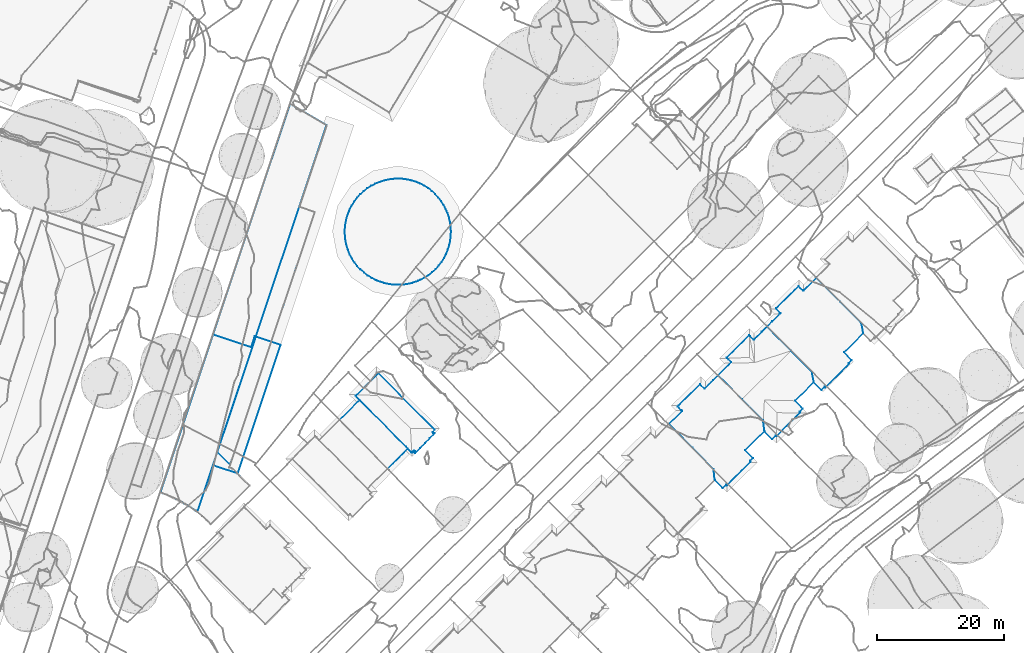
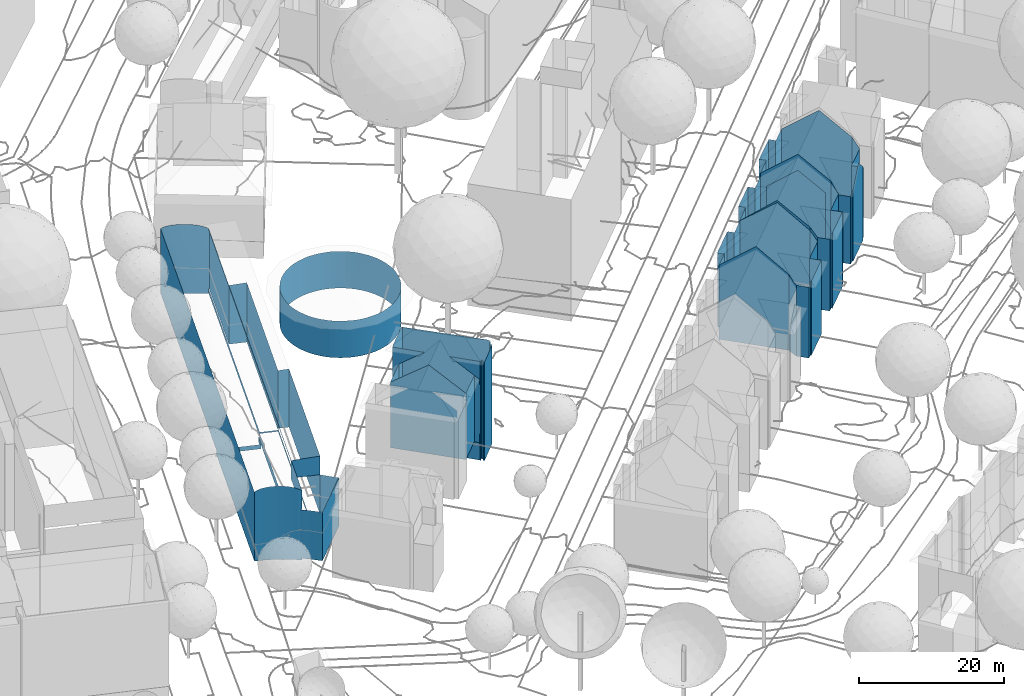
# Not in any storey, part 27 of 477: 6 walls.
"""IFC4 building model written with IfcOpenShell, lengths in metres."""

from ifc_helpers import new_model, si_unit, frame, origin_with_axes, place, context, subcontext, project, spatial, polygons, element, save


model = new_model("IFC4")

# Units and contexts
model_context = context("Model", 3, precision=1e-05, world=origin_with_axes())
body_context = subcontext(model_context, "Body", "Model", "MODEL_VIEW")
ifc_project = project(units=[si_unit("AREAUNIT", "SQUARE_METRE"), si_unit("LENGTHUNIT", "METRE")], contexts=[model_context])

# Sites, building
site_1_placement = place(None, origin_with_axes())
site_1 = spatial("IfcSite", under=ifc_project, at=site_1_placement, Name="Topoexport Site")
site_2_placement = place(site_1_placement, origin_with_axes())
site_2 = spatial("IfcSite", under=site_1, at=site_2_placement, Name="TPX_BUILDINGS")
building_1_placement = place(site_2_placement, frame((168.236732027, 159.8387160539, 531.4768), z_axis=(0.0, 0.0, 1.0), x_axis=(1.0, 0.0, 0.0)))
building_1 = spatial("IfcBuilding", under=site_2, at=building_1_placement, Name="Building 76", CompositionType="ELEMENT")

# Wall
wall_1_placement = place(None, frame((168.236732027, 159.8387160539, 531.4768), z_axis=(0.0, 0.0, 1.0), x_axis=(1.0, 0.0, 0.0)))
element("IfcWall", 1, at=wall_1_placement, inside=building_1, Name="Wall 0", context=body_context, shape_type="Tessellation", body=[
    polygons([(11.4100000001, -7.4043000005, 0.0), (12.1099999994, -6.7080000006, 13.4237), (12.5319999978, -6.2891000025, 1.9428), (12.9759999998, -5.8487000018, 12.3158), (12.9759999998, -5.8487000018, 0.0), (13.3440000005, -5.2735000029, 0.0), (13.1799999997, -5.4356000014, 11.9209), (13.3440000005, -5.2735000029, 11.7109), (12.8709999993, -5.7432000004, 0.0), (12.8709999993, -5.7432000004, 12.3158), (12.1510000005, -4.0655000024, 0.0), (12.1510000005, -4.0655000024, 11.7109), (15.1840000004, -1.0703000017, 0.0), (15.1840000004, -1.0703000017, 11.7109), (14.8770000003, 0.5409999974, 0.0), (14.8770000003, 0.5409999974, 12.7678), (9.1860000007, -9.6123000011, 0.0), (9.0819999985, -9.505900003, 0.0), (9.1860000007, -9.6123000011, 11.9878), (9.4199999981, -9.3789000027, 12.2898), (9.4109999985, -9.3877000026, 0.0), (10.6479999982, -8.1601999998, 13.8747), (11.2010000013, -7.6114000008, 14.5876), (10.362999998, -8.443400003, 3.9336), (7.3669999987, -8.7871000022, 11.3339), (8.574000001, -10.009800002, 11.3339), (7.3669999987, -8.7871000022, 0.0), (8.574000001, -10.009800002, 0.0), (9.0819999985, -9.505900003, 11.9888), (7.0720000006, -7.1641000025, 0.0), (3.7619999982, -3.8115000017, 0.0), (7.0720000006, -7.1641000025, 12.7678), (11.5669999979, 3.8954999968, 0.0), (11.5669999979, 3.8954999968, 16.4254), (7.7809999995, 7.7303999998, 0.0), (7.7809999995, 7.7303999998, 12.2278), (5.7349999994, 5.6981999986, 0.0), (5.7540000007, 5.7167999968, 12.2338), (5.688000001, 5.6512999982, 0.0), (5.7309999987, 5.6942999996, 12.2608), (5.688000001, 5.6512999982, 12.3088), (5.2509999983, 6.0907999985, 5.3855), (4.9710000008, 6.3729999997, 0.0), (4.9890000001, 6.3553999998, 12.3108), (2.2919999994, 3.748999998, 12.2788), (1.3990000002, 2.873999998, 12.2748), (1.3990000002, 2.873999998, 0.0), (4.0779999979, 5.4979999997, 12.2868), (4.9710000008, 6.3729999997, 12.2908), (1.4600000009, 2.8125, 12.3448), (1.4529999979, 2.8192999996, 0.0), (2.1400000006, 2.1268999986, 12.3628), (2.1400000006, 2.1268999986, 0.0), (2.0590000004, 2.0458999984, 12.2768), (2.0579999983, 2.0449000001, 0.0), (2.0170000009, 2.0048999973, 0.0), (2.0159999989, 2.003899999, 12.2308), (0.8209999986, 0.816399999, 12.2508), (0.824000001, 0.8192999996, 0.0), (0.0, 0.0, 12.2538), (3.7619999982, -3.8115999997, 16.4254), (0.0, 0.0, 0.0)], [[[3, 2, 1]], [[5, 4, 2]], [[5, 3, 1]], [[8, 7, 6]], [[6, 7, 9]], [[7, 10, 9]], [[12, 6, 11]], [[6, 12, 8]], [[14, 12, 13]], [[16, 14, 15]], [[19, 18, 17]], [[20, 19, 17]], [[21, 20, 17]], [[23, 22, 1]], [[24, 22, 20]], [[21, 24, 20]], [[24, 21, 1]], [[27, 26, 25]], [[27, 28, 26]], [[26, 18, 29]], [[26, 28, 18]], [[25, 30, 27]], [[32, 31, 30]], [[34, 16, 33]], [[36, 33, 35]], [[38, 36, 37]], [[41, 40, 39]], [[42, 41, 39]], [[44, 42, 43]], [[42, 39, 43]], [[47, 46, 45]], [[45, 48, 47]], [[43, 47, 48]], [[43, 48, 49]], [[51, 50, 47]], [[43, 49, 44]], [[50, 53, 52]], [[50, 51, 53]], [[52, 53, 54]], [[54, 53, 55]], [[54, 55, 56]], [[59, 58, 57]], [[54, 56, 57]], [[57, 56, 59]], [[61, 60, 31]], [[58, 59, 62]], [[60, 58, 62]], [[2, 23, 1]], [[2, 3, 5]], [[10, 4, 9]], [[4, 5, 9]], [[12, 11, 13]], [[14, 13, 15]], [[18, 19, 29]], [[22, 24, 1]], [[32, 30, 25]], [[61, 31, 32]], [[16, 15, 33]], [[34, 33, 36]], [[36, 35, 37]], [[39, 40, 38]], [[37, 39, 38]], [[42, 44, 41]], [[46, 47, 50]], [[60, 62, 31]]]),
])

# Building
building_2_placement = place(site_2_placement, frame((152.792732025, 144.4969160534, 530.4589), z_axis=(0.0, 0.0, 1.0), x_axis=(1.0, 0.0, 0.0)))
building_2 = spatial("IfcBuilding", under=site_2, at=building_2_placement, Name="Building 77", CompositionType="ELEMENT")

# Wall
wall_2_placement = place(None, frame((152.792732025, 144.4969160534, 530.4589), z_axis=(0.0, 0.0, 1.0), x_axis=(1.0, 0.0, 0.0)))
element("IfcWall", 2, at=wall_2_placement, inside=building_2, Name="Wall 0", context=body_context, shape_type="Tessellation", body=[
    polygons([(11.4990000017, 3.9199000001, 0.0), (14.8100000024, 0.5673999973, 12.7558), (11.4990000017, 3.9199000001, 16.6064), (1.9750000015, 2.0830000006, 12.4228), (2.0360000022, 2.0214999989, 12.4898), (2.0360000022, 2.0214999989, 0.0), (1.9360000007, 2.1219999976, 12.3788), (1.9040000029, 2.1543000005, 0.0), (0.0, 0.0, 0.0), (0.0, 0.0, 12.4958), (3.7160000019, -3.7655999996, 0.0), (3.7160000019, -3.7655999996, 16.6064), (15.0250000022, -1.134800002, 0.0), (11.9930000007, -4.1270000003, 0.0), (15.0250000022, -1.134800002, 11.9018), (14.8100000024, 0.5673999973, 0.0), (13.2320000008, -5.3819000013, 0.0), (12.7850000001, -5.8262000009, 0.0), (13.2320000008, -5.3819000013, 11.9018), (12.7850000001, -5.8262000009, 12.3778), (11.9930000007, -4.1270000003, 11.9018), (12.8900000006, -5.9326000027, 12.3778), (12.8900000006, -5.9326000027, 0.0), (12.7750000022, -6.0459000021, 12.4998), (9.3020000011, -9.4970999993, 0.0), (9.0870000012, -9.7109999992, 0.0), (9.1120000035, -9.6865000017, 12.4878), (12.7840000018, -6.0371000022, 0.0), (1.3220000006, 2.7412, 12.3768), (1.3220000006, 2.7412, 0.0), (1.4580000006, 2.8759999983, 12.5208), (1.4649999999, 2.8827999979, 0.0), (1.5400000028, 2.5205000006, 12.3768), (5.5789999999, 5.5409999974, 0.0), (6.9240000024, 6.8779000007, 12.5478), (5.7410000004, 5.7020999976, 12.4768), (7.314000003, 7.2655999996, 12.5508), (6.9670000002, 6.9208999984, 0.0), (7.7600000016, 7.7080000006, 0.0), (7.7600000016, 7.7080000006, 12.5548), (7.7060000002, 7.6552999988, 12.5538), (4.8600000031, 6.2635999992, 0.0), (5.5789999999, 5.5409999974, 12.6608), (5.006000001, 6.1171999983, 12.6628), (3.0500000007, 4.4608999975, 12.5138), (7.2149999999, -8.8447999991, 0.0), (7.0860000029, -8.1914000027, 0.0), (7.2149999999, -8.8447999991, 11.9018), (8.9810000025, -9.6044999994, 0.0), (8.4680000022, -10.1132999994, 11.9018), (8.9810000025, -9.6044999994, 12.4608), (9.0870000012, -9.7109999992, 12.4608), (8.4680000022, -10.1132999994, 0.0), (7.0250000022, -7.1172000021, 0.0), (7.0860000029, -8.1914000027, 12.2278), (7.0250000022, -7.1172000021, 12.7558), (4.8600000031, 6.2635999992, 12.5048)], [[[3, 2, 1]], [[6, 5, 4]], [[4, 7, 6]], [[7, 8, 6]], [[10, 5, 9]], [[9, 5, 6]], [[12, 10, 11]], [[15, 14, 13]], [[2, 15, 16]], [[19, 18, 17]], [[19, 20, 18]], [[21, 19, 14]], [[19, 17, 14]], [[24, 23, 22]], [[22, 23, 20]], [[20, 23, 18]], [[27, 26, 25]], [[24, 27, 28]], [[31, 30, 29]], [[31, 32, 30]], [[7, 33, 8]], [[29, 30, 33]], [[36, 35, 34]], [[38, 35, 37]], [[38, 37, 39]], [[1, 40, 3]], [[41, 40, 39]], [[44, 43, 42]], [[43, 34, 42]], [[32, 31, 45]], [[42, 32, 45]], [[48, 47, 46]], [[51, 50, 49]], [[26, 52, 49]], [[26, 27, 52]], [[50, 46, 53]], [[46, 50, 48]], [[55, 54, 47]], [[56, 11, 54]], [[2, 16, 1]], [[10, 9, 11]], [[21, 14, 15]], [[15, 13, 16]], [[23, 24, 28]], [[27, 25, 28]], [[8, 33, 30]], [[35, 38, 34]], [[39, 40, 1]], [[37, 41, 39]], [[36, 34, 43]], [[44, 42, 57]], [[57, 42, 45]], [[55, 47, 48]], [[50, 53, 49]], [[51, 49, 52]], [[56, 54, 55]], [[12, 11, 56]]]),
])

# Building
building_3_placement = place(site_2_placement, frame((101.6207320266, 174.7557160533, 529.8231), z_axis=(0.0, 0.0, 1.0), x_axis=(1.0, 0.0, 0.0)))
building_3 = spatial("IfcBuilding", under=site_2, at=building_3_placement, Name="Building 140", CompositionType="ELEMENT")

# Wall
wall_3_placement = place(None, frame((101.6207320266, 174.7557160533, 529.8231), z_axis=(0.0, 0.0, 1.0), x_axis=(1.0, 0.0, 0.0)))
element("IfcWall", 3, at=wall_3_placement, inside=building_3, Name="Wall 0", context=body_context, shape_type="Tessellation", body=[
    polygons([(8.3720000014, 8.4120999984, 6.2124), (8.3530000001, 8.4131000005, 6.2124), (8.3520000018, 8.4131000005, 0.0), (7.625, 8.378899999, 6.1974), (7.625, 8.378899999, 0.0), (6.8999999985, 8.2811999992, 6.1904), (6.8999999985, 8.2811999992, 0.0), (6.1860000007, 8.1210999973, 6.1934), (6.1860000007, 8.1210999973, 0.0), (5.4890000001, 7.8993999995, 0.0), (5.4890000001, 7.8993999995, 6.2044), (5.2030000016, 7.7802000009, 6.2134), (11.5469999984, 7.7821999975, 6.2124), (11.2120000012, 7.9188999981, 6.2034), (11.2129999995, 7.9188999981, 0.0), (10.5159999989, 8.1356999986, 0.0), (10.5159999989, 8.1356999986, 6.1924), (9.8040000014, 8.2909999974, 6.1904), (9.8040000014, 8.2909999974, 0.0), (9.0810000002, 8.3827999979, 0.0), (9.0810000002, 8.3827999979, 6.1974), (13.7300000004, 6.4794999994, 6.1944), (13.7300000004, 6.4794999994, -0.0001), (14.2670000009, 5.9921999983, -0.0001), (14.2540000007, 6.003899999, 6.2094), (13.1499999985, 6.9199000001, 6.1884), (13.1499999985, 6.9199000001, -0.0001), (12.5340000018, 7.3085999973, 0.0), (12.5340000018, 7.3085999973, 6.1914), (11.8859999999, 7.6424999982, 6.2024), (11.8859999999, 7.6424999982, 0.0), (16.0769999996, 3.3085999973, -0.0001), (16.0749999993, 3.3143999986, 6.2063), (15.9459999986, 3.6210999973, 6.1973), (15.9459999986, 3.6210999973, -0.0001), (15.6059999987, 4.2655999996, 6.1874), (15.6059999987, 4.2655999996, -0.0001), (15.2109999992, 4.8779000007, -0.0001), (15.2109999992, 4.8779000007, 6.1854), (14.7650000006, 5.4540999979, 6.1924), (14.7650000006, 5.4540999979, -0.0001), (14.2699999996, 5.9891999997, 6.2084), (16.4519999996, 2.2547999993, -0.0001), (16.6130000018, 1.5449000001, -0.0001), (16.6130000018, 1.5449000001, 6.1813), (16.4519999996, 2.2547999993, 6.1833), (16.2280000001, 2.9492000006, -0.0001), (16.75, 0.0887999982, -0.0001), (16.7329999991, 0.4188999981, 6.1953), (16.7129999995, 0.8231999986, -0.0001), (16.7129999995, 0.8231999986, 6.1873), (16.7479999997, 0.125, 6.2013), (16.2630000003, -2.7774000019, -0.0001), (15.9880000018, -3.4550999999, -0.0001), (16.2630000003, -2.7774000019, 6.1883), (16.4789999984, -2.0782000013, 6.1783), (16.4789999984, -2.0782000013, -0.0001), (16.6319999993, -1.3643000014, -0.0001), (16.7230000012, -0.6377000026, -0.0001), (16.6319999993, -1.3643000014, 6.1763), (16.7230000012, -0.6377000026, 6.1833), (14.3410000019, -5.8418000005, 6.1923), (14.824000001, -5.3067000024, 6.1773), (14.824000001, -5.3067000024, -0.0001), (14.3339999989, -5.8496000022, -0.0001), (15.2659999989, -4.7237000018, 6.1713), (15.2659999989, -4.7237000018, -0.0001), (15.6550000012, -4.1044999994, -0.0001), (15.9880000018, -3.4550999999, 6.1863), (11.6020000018, -7.6845999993, -0.0001), (11.9600000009, -7.5342000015, 6.1803), (11.9600000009, -7.5342000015, -0.0001), (11.6079999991, -7.6817000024, 6.1903), (12.6059999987, -7.192400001, -0.0001), (13.2199999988, -6.7959000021, 6.1683), (13.2199999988, -6.7959000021, -0.0001), (13.7980000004, -6.3467000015, -0.0001), (13.7980000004, -6.3467000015, 6.1763), (14.3341000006, -5.8496000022, 6.1923), (9.1530000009, -8.3037, 6.1723), (9.8770000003, -8.2041000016, 6.1663), (9.1530000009, -8.3037, -0.0001), (10.5899999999, -8.0419999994, -0.0001), (10.5899999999, -8.0419999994, 6.1693), (9.8770000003, -8.2041000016, -0.0001), (11.2859999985, -7.8183999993, 6.1813), (8.4250000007, -8.3399000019, -0.0001), (8.379999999, -8.3379000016, 6.1883), (8.4219999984, -8.3399000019, 6.1873), (5.5529999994, -7.8506000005, 6.1793), (5.5529999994, -7.8506000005, -0.0001), (5.1420000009, -7.683600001, -0.0001), (6.2509999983, -8.067400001, 6.1683), (6.2509999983, -8.067400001, -0.0001), (6.9660000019, -8.2206999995, 6.1663), (6.9660000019, -8.2206999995, -0.0001), (7.6920000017, -8.3125, 6.1743), (7.6920000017, -8.3125, -0.0001), (8.0980000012, -8.3282000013, 6.1823), (4.8759999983, -7.5752000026, -0.0001), (4.2250000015, -7.2412, -0.0001), (4.8759999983, -7.5752000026, 6.1823), (4.2250000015, -7.2412, 6.1714), (5.1400000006, -7.6827000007, 6.1903), (2.4100000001, -5.8399000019, 6.1924), (2.4820000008, -5.9180000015, 6.1894), (2.4829999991, -5.9189999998, -0.0001), (3.0240000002, -6.4101999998, 6.1744), (3.0240000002, -6.4101999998, -0.0001), (3.6070000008, -6.8516000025, 6.1684), (3.6070000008, -6.8516000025, -0.0001), (0.5179999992, -2.8662, 0.0), (0.6119999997, -3.0899000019, 6.1974), (0.800999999, -3.5401000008, 6.1844), (0.800999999, -3.5401000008, -0.0001), (1.1420000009, -4.1875, -0.0001), (1.1420000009, -4.1875, 6.1734), (1.5370000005, -4.8027999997, -0.0001), (1.9849999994, -5.3808999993, -0.0001), (1.9849999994, -5.3808999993, 6.1794), (0.2950000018, -2.1689999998, 0.0), (0.2950000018, -2.1689999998, 6.1794), (0.5179999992, -2.8662, 6.1904), (0.0, 0.0, 6.1974), (0.0350000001, -0.7314999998, 6.1824), (0.0350000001, -0.7314999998, 0.0), (0.0, 0.0, 0.0), (0.1330000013, -1.4550999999, 6.1764), (0.1330000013, -1.4550999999, 0.0), (0.0289999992, 0.7313999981, 6.1884), (0.0289999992, 0.7313999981, 0.0), (0.6750000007, 3.311499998, 0.0), (0.675999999, 3.3143999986, 6.2064), (0.493999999, 2.870099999, 0.0), (0.2769999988, 2.1717999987, 6.1834), (0.2769999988, 2.1717999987, 0.0), (0.493999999, 2.870099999, 6.1934), (0.1220000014, 1.4569999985, 6.1814), (0.1220000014, 1.4569999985, 0.0), (3.5500000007, 6.8817999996, 6.1894), (4.1660000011, 7.2773000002, 0.0), (4.1660000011, 7.2773000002, 6.1914), (3.5500000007, 6.8817999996, 0.0), (2.9719999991, 6.4344999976, 0.0), (2.9719999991, 6.4344999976, 6.1964), (2.5020000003, 6.0018999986, 6.2094), (2.4340000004, 5.9393999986, 6.2064), (2.4349999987, 5.9404000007, 0.0), (4.8139999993, 7.6171999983, 6.2014), (4.8139999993, 7.6171999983, 0.0), (1.1070000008, 4.1972000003, 6.1884), (1.1070000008, 4.1972000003, 0.0), (1.4979999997, 4.816399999, 0.0), (1.4979999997, 4.816399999, 6.1854), (0.7719999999, 3.5467999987, 0.0), (0.7719999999, 3.5467999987, 6.1994), (1.9409999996, 5.3983999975, 0.0), (16.2280000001, 2.9492000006, 6.1953), (16.75, 0.0927000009, 6.1993), (15.6550000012, -4.1044999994, 6.1743), (16.1359999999, -3.0899000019, 6.1973), (12.6059999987, -7.192400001, 6.1703), (11.2859999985, -7.8183999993, -0.0001), (1.5370000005, -4.8027999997, 6.1724), (0.004999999, 0.125, 6.2014), (1.9409999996, 5.3983999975, 6.1914)], [[[3, 2, 1]], [[5, 4, 3]], [[3, 4, 2]], [[5, 6, 4]], [[7, 6, 5]], [[9, 8, 7]], [[8, 6, 7]], [[11, 8, 10]], [[8, 9, 10]], [[11, 10, 12]], [[15, 14, 13]], [[17, 14, 16]], [[14, 15, 16]], [[16, 19, 18]], [[21, 19, 20]], [[21, 20, 3]], [[24, 23, 22]], [[25, 24, 22]], [[27, 26, 22]], [[22, 23, 27]], [[29, 27, 28]], [[29, 28, 30]], [[30, 28, 31]], [[15, 13, 31]], [[34, 33, 32]], [[34, 32, 35]], [[37, 36, 35]], [[35, 36, 34]], [[39, 37, 38]], [[39, 41, 40]], [[39, 38, 41]], [[42, 40, 24]], [[40, 41, 24]], [[25, 42, 24]], [[45, 44, 43]], [[47, 46, 43]], [[50, 49, 48]], [[50, 51, 49]], [[49, 52, 48]], [[44, 45, 50]], [[51, 50, 45]], [[55, 54, 53]], [[57, 56, 53]], [[56, 55, 53]], [[56, 57, 58]], [[61, 60, 59]], [[60, 58, 59]], [[48, 61, 59]], [[64, 63, 62]], [[62, 65, 64]], [[67, 66, 63]], [[63, 64, 67]], [[68, 66, 67]], [[54, 55, 69]], [[72, 71, 70]], [[70, 71, 73]], [[74, 71, 72]], [[74, 76, 75]], [[78, 76, 77]], [[65, 78, 77]], [[79, 65, 62]], [[82, 81, 80]], [[84, 81, 83]], [[83, 81, 85]], [[86, 84, 83]], [[73, 86, 70]], [[89, 88, 87]], [[80, 89, 82]], [[89, 87, 82]], [[92, 91, 90]], [[90, 91, 93]], [[93, 91, 94]], [[95, 93, 94]], [[95, 94, 96]], [[98, 97, 95]], [[88, 99, 87]], [[97, 98, 99]], [[99, 98, 87]], [[102, 101, 100]], [[102, 103, 101]], [[104, 102, 92]], [[102, 100, 92]], [[107, 106, 105]], [[106, 107, 108]], [[109, 108, 107]], [[109, 111, 110]], [[110, 108, 109]], [[103, 110, 101]], [[114, 113, 112]], [[114, 112, 115]], [[117, 115, 116]], [[117, 116, 118]], [[107, 105, 119]], [[105, 120, 119]], [[122, 121, 112]], [[123, 112, 113]], [[126, 125, 124]], [[126, 124, 127]], [[129, 128, 126]], [[126, 128, 125]], [[122, 129, 121]], [[127, 124, 130]], [[130, 131, 127]], [[134, 133, 132]], [[136, 135, 134]], [[134, 135, 137]], [[136, 139, 138]], [[138, 131, 130]], [[142, 141, 140]], [[143, 140, 141]], [[145, 140, 144]], [[144, 140, 143]], [[148, 147, 146]], [[145, 148, 146]], [[145, 144, 148]], [[150, 149, 10]], [[149, 141, 142]], [[149, 150, 141]], [[153, 152, 151]], [[154, 153, 151]], [[155, 151, 152]], [[156, 155, 132]], [[154, 157, 153]], [[17, 16, 18]], [[18, 19, 21]], [[3, 1, 21]], [[29, 26, 27]], [[30, 31, 13]], [[36, 37, 39]], [[45, 43, 46]], [[47, 158, 46]], [[32, 33, 158]], [[158, 47, 32]], [[52, 159, 48]], [[56, 58, 60]], [[48, 159, 61]], [[68, 160, 66]], [[69, 68, 54]], [[160, 68, 69]], [[161, 69, 55]], [[74, 162, 71]], [[162, 74, 75]], [[75, 76, 78]], [[78, 65, 79]], [[85, 81, 82]], [[163, 86, 83]], [[70, 86, 163]], [[104, 92, 90]], [[95, 96, 98]], [[110, 111, 101]], [[115, 117, 114]], [[164, 117, 118]], [[118, 120, 164]], [[120, 118, 119]], [[122, 112, 123]], [[128, 129, 122]], [[165, 130, 124]], [[134, 137, 133]], [[156, 132, 133]], [[136, 138, 135]], [[138, 139, 131]], [[149, 12, 10]], [[156, 151, 155]], [[147, 148, 166]], [[157, 166, 148]], [[166, 157, 154]]]),
])

# Building
building_4_placement = place(site_2_placement, frame((100.8207320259, 145.1316160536, 530.024), z_axis=(0.0, 0.0, 1.0), x_axis=(1.0, 0.0, 0.0)))
building_4 = spatial("IfcBuilding", under=site_2, at=building_4_placement, Name="Building 142", CompositionType="ELEMENT")

# Wall
wall_4_placement = place(None, frame((100.8207320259, 145.1316160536, 530.024), z_axis=(0.0, 0.0, 1.0), x_axis=(1.0, 0.0, 0.0)))
element("IfcWall", 4, at=wall_4_placement, inside=building_4, Name="Wall 0", context=body_context, shape_type="Tessellation", body=[
    polygons([(3.1640000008, 3.1338, 11.0809), (0.0, 0.0, 11.0409), (0.0, 0.0, 8.3352), (0.0, 0.0, 0.0), (3.1640000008, 3.1338, 0.0), (11.2789999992, -5.1103000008, 7.8082), (10.7360000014, -4.5604999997, 11.1429), (11.2789999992, -5.1103000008, 10.594), (8.800999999, -6.4775000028, 0.0), (10.7360000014, -4.5604999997, 0.0), (7.5650000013, -7.701100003, 11.1839), (9.1510000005, -6.1308000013, 11.1639), (7.5650000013, -7.701100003, 4.0236), (7.5650000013, -7.701100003, 0.0), (11.2809999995, -5.1084000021, 10.594), (11.2809999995, -5.1084000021, 13.6187), (11.3680000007, -5.201100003, 13.6147), (11.3680000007, -5.201100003, -2.9817), (11.2789999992, -5.1103000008, 5.0225), (11.2809999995, -5.1084000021, 0.0), (11.2809999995, -5.1084000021, -2.9787), (11.2809999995, -5.1084000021, -0.7379), (11.8720000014, -4.9550000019, 13.4937), (11.8420000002, -5.196200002, 13.3987), (11.8420000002, -5.1963, -3.1977), (11.8720000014, -4.9550000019, -3.1027), (11.9090000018, -5.2627000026, -3.2587), (13.4570000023, -3.6796000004, -3.2547), (13.4570000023, -3.6796000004, 13.3417), (14.2270000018, -2.8916000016, -3.2517), (12.6860000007, -4.4687000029, -3.2567), (12.6860000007, -4.4687000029, 13.3397), (15.0, -2.1015000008, -3.2497), (14.2270000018, -2.8916000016, 13.3447), (15.0, -2.1015000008, 13.3467), (11.9090000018, -5.2627000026, 13.3377), (11.3920000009, -5.1796000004, -2.9837), (11.3920000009, -5.1796000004, 13.6127), (11.5780000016, -4.9931000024, 13.6117), (11.6559999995, -4.9160000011, 13.6117), (11.6590000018, -4.9121000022, -2.9847), (11.745000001, -4.8271000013, -2.9857), (11.745000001, -4.8271000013, 13.6107), (11.4800000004, -5.0908000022, 1.1669), (11.4800000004, -5.0908000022, 13.6127), (14.7589999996, -2.1103000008, 13.4537), (14.625, -1.9746000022, 13.5747), (14.7589999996, -2.1103000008, -3.1427), (15.0160000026, -1.5877999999, 1.1229), (14.625, -1.9746000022, -3.0217), (15.0160000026, -1.5877999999, 9.4211), (15.0160000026, -1.5879000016, -3.0267), (11.2910000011, -5.0976000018, -0.7399), (11.2880000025, -5.1005000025, -2.9707), (11.2789999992, -5.1103000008, 0.0), (11.3000000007, -5.0868999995, 0.0), (11.2950000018, -5.0927000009, -2.9637), (11.2880000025, -5.0996000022, 11.3689), (11.2930000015, -5.0947000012, 13.6307), (11.3000000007, -5.0868999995, 12.8767), (11.3000000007, -5.0868999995, 13.6377), (11.3000000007, -5.0877999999, 10.594), (11.2950000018, -5.0927000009, 11.3499), (11.3000000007, -5.0868999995, 12.1148), (3.8530000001, -3.9218000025, 14.9536), (3.8530000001, -3.9218000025, 0.0), (14.7740000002, -1.3427000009, 13.7907), (6.1550000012, 7.3632999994, 13.6857), (6.1550000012, 7.3632999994, -2.9107), (15.0160000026, -1.5877999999, 13.5697), (14.7740000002, -1.3427000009, -2.8057), (2.5309999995, 3.7744999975, -2.8387), (5.8210000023, 7.0322999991, 13.9947), (2.5309999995, 3.7744999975, 13.7577), (2.7329999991, 3.9736999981, 13.9587), (5.8210000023, 7.0322999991, -2.6017), (2.7329999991, 3.9736999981, -2.6377), (10.4810000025, -4.258700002, 11.4239), (8.25, -2.004800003, 13.6797), (10.4810000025, -4.258700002, 13.6497), (10.4810000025, -4.258700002, 0.0), (2.6960000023, 3.6064999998, -2.8407), (10.4810000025, -4.258700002, -2.9467), (11.3000000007, -5.0868999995, -2.9587), (2.6830000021, 3.620199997, 13.7557), (5.7660000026, 0.5048999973, 13.7137), (11.5329999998, -5.0390000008, -2.9837)], [[[3, 2, 1]], [[3, 5, 4]], [[8, 7, 6]], [[10, 7, 9]], [[9, 12, 11]], [[11, 13, 9]], [[14, 9, 13]], [[17, 16, 15]], [[17, 19, 18]], [[6, 17, 15]], [[19, 20, 18]], [[22, 21, 18]], [[20, 22, 18]], [[25, 24, 23]], [[23, 26, 25]], [[24, 25, 27]], [[30, 29, 28]], [[29, 32, 31]], [[35, 34, 33]], [[30, 33, 34]], [[32, 36, 31]], [[38, 18, 37]], [[18, 38, 17]], [[41, 40, 39]], [[43, 40, 42]], [[45, 38, 44]], [[37, 44, 38]], [[48, 47, 46]], [[51, 50, 49]], [[49, 50, 52]], [[54, 22, 53]], [[53, 22, 55]], [[57, 53, 56]], [[55, 20, 53]], [[20, 56, 53]], [[58, 15, 16]], [[61, 60, 59]], [[58, 63, 62]], [[64, 62, 63]], [[58, 62, 15]], [[11, 65, 13]], [[13, 65, 2]], [[66, 13, 3]], [[3, 4, 66]], [[14, 13, 66]], [[3, 13, 2]], [[42, 23, 43]], [[23, 42, 26]], [[33, 46, 35]], [[46, 33, 48]], [[68, 67, 51]], [[49, 69, 68]], [[51, 67, 70]], [[49, 68, 51]], [[49, 52, 71]], [[71, 69, 49]], [[74, 73, 72]], [[74, 75, 73]], [[73, 68, 72]], [[69, 76, 68]], [[77, 72, 68]], [[76, 77, 68]], [[62, 64, 78]], [[64, 60, 79]], [[79, 60, 80]], [[78, 64, 79]], [[80, 60, 61]], [[82, 81, 5]], [[84, 56, 83]], [[81, 83, 56]], [[83, 81, 82]], [[1, 86, 85]], [[85, 74, 1]], [[82, 5, 72]], [[5, 74, 72]], [[5, 1, 74]], [[1, 5, 3]], [[19, 6, 7]], [[7, 55, 19]], [[7, 10, 55]], [[12, 9, 7]], [[6, 19, 17]], [[24, 27, 36]], [[34, 29, 30]], [[29, 31, 28]], [[36, 27, 31]], [[39, 45, 44]], [[40, 41, 42]], [[39, 87, 41]], [[44, 87, 39]], [[87, 44, 37]], [[50, 47, 48]], [[47, 51, 70]], [[47, 50, 51]], [[21, 22, 54]], [[54, 53, 57]], [[57, 56, 84]], [[16, 59, 58]], [[58, 59, 63]], [[60, 64, 59]], [[63, 59, 64]], [[15, 8, 6]], [[20, 22, 55]], [[19, 55, 20]]]),
])

# Building
building_5_placement = place(site_2_placement, frame((72.548732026, 133.6649160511, 527.8002), z_axis=(0.0, 0.0, 1.0), x_axis=(1.0, 0.0, 0.0)))
building_5 = spatial("IfcBuilding", under=site_2, at=building_5_placement, Name="Building 143", CompositionType="ELEMENT")

# Wall
wall_5_placement = place(None, frame((72.548732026, 133.6649160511, 527.8002), z_axis=(0.0, 0.0, 1.0), x_axis=(1.0, 0.0, 0.0)))
element("IfcWall", 5, at=wall_5_placement, inside=building_5, Name="Wall 0", context=body_context, shape_type="Tessellation", body=[
    polygons([(5.6130000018, -2.8974999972, 8.4512), (5.8420000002, -3.0156999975, 11.6169), (5.8420000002, -3.0156999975, 8.4512), (5.6130000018, -2.8974999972, 0.279), (5.8420000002, -3.0156999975, 0.279), (5.8420000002, -3.0156999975, 0.0), (5.5399999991, -2.8594000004, 0.0), (5.5399999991, -2.8594000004, 11.8599), (5.4290000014, -2.807699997, 0.0), (0.1180000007, -0.0615999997, 0.0), (0.0, 0.0, 11.6169), (0.1180000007, -0.0615999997, 11.7119), (6.5650000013, -3.7099999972, 0.279), (5.8310000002, -3.1142999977, 8.4512), (6.5650000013, -3.7099999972, 8.4512), (7.2679999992, -4.3409000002, 0.279), (7.2679999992, -4.3409000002, 8.4512), (7.9409999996, -5.0048999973, 0.279), (7.9409999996, -5.0048999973, 8.4512), (14.0480000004, 1.0478000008, 0.279), (14.0480000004, 1.0478000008, 8.4512), (8.9759999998, 6.3779000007, 0.279), (11.001000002, 4.3583000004, 0.279), (8.9759999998, 6.3779000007, 1.2579), (5.8310000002, -3.1142999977, 0.279), (14.8660000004, 24.6484000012, 0.0), (15.0529999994, 24.5868999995, 0.738), (14.8660000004, 24.6484000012, 0.738), (14.2789999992, 22.8935000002, 0.0), (14.2789999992, 22.8935000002, 0.738), (21.938000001, 45.0312000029, 1.4999), (24.3370000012, 44.2285000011, 1.4999), (21.938000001, 45.0312000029, 11.412), (26.2369999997, 57.8828000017, 1.4999), (26.2369999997, 57.8828000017, 11.413), (15.0529999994, 24.5868999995, 1.2579), (17.493999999, 23.7705000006, 1.4999), (15.0529999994, 24.5868999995, 1.4999), (17.493999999, 23.7705000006, 1.7849), (18.9510000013, 23.2840999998, 1.7849), (17.493999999, 23.7705000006, 11.5229), (12.1779999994, 2.9873000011, 1.7848), (12.1469999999, 2.9970000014, 8.4512), (12.1779999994, 2.9873000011, 11.5899), (12.1469999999, 2.9970000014, 11.5889), (18.9510000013, 23.2840999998, 11.5899), (12.1469999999, 2.9970000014, 1.7848), (12.069000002, 3.0751000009, 1.7848), (12.069000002, 3.0751000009, 1.2579), (12.0700000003, 3.076100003, 0.279), (11.3200000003, 3.7939000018, 0.279), (11.3200000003, 3.7939000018, 1.7848), (10.8630000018, 3.946200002, 0.279), (10.8630000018, 3.946200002, 1.7849), (8.2789999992, 4.2890000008, 11.4099), (4.6420000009, -2.2696000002, 0.0), (3.8350000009, -1.7656999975, 0.0), (4.6420000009, -2.2696000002, 12.1849), (3.8339999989, -1.7636999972, 12.3198), (4.4739999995, -2.1640999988, 12.2288), (5.4290000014, -2.807699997, 11.9069), (5.0749999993, -2.5654999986, 12.0689), (3.0020000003, -1.2978999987, 0.0), (3.0020000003, -1.2978999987, 12.3638), (3.7659999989, -1.7265999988, 12.3298), (26.175999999, 57.9189000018, 1.4999), (26.175999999, 57.9189000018, 0.738), (15.0529999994, 24.5868999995, 0.0), (1.4600000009, -0.5751999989, 12.2289), (2.004999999, -0.807699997, 12.3028), (2.004999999, -0.807699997, 0.0), (0.9810000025, -0.3720999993, 12.1099), (1.4600000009, -0.5751999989, 0.0), (0.9810000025, -0.3720999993, 0.0), (2.2039999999, -0.9052999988, 12.3298), (0.8139999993, -0.3125, 12.0689), (0.3110000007, -0.1298999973, 11.8599), (0.8139999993, -0.3125, 0.0), (0.3110000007, -0.1298999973, 0.0), (8.3060000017, 24.8905999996, 0.738), (0.0, 0.0, 0.0), (8.3060000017, 24.8905999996, 11.6169), (20.4539999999, 61.2920000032, 0.738), (8.3060000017, 24.8905999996, 0.0), (26.175999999, 57.9189000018, 11.4101), (15.0529999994, 24.5868999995, 11.617), (26.175999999, 57.9189000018, 11.6171), (15.0529999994, 24.5868999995, 11.4101), (8.2789999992, 4.2890000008, 8.4512), (24.3370000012, 44.2285000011, 11.523), (11.001000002, 4.3583000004, 1.2579), (17.493999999, 23.7705000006, 1.2579), (21.2210000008, 60.8418000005, 12.0689), (20.7479999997, 61.1210000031, 11.8599), (20.4539999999, 61.2919000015, 11.617), (21.8350000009, 60.4794000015, 12.2289), (23.3150000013, 59.6064000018, 12.3639), (22.5490000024, 60.0585000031, 12.3299), (22.5040000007, 60.0859000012, 0.738), (20.7420000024, 61.1240000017, 0.738), (24.131000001, 59.125, 0.738), (24.7960000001, 58.7324000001, 12.2289), (24.0820000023, 59.1543000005, 12.3299), (25.4100000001, 58.3710000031, 12.0689), (25.881000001, 58.0927000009, 11.8599)], [[[3, 2, 1]], [[6, 5, 4]], [[1, 8, 7]], [[8, 1, 2]], [[4, 7, 6]], [[7, 4, 1]], [[8, 9, 7]], [[12, 11, 10]], [[15, 14, 13]], [[17, 15, 16]], [[19, 17, 18]], [[21, 19, 20]], [[24, 23, 22]], [[14, 1, 25]], [[28, 27, 26]], [[30, 28, 29]], [[33, 32, 31]], [[35, 33, 34]], [[38, 37, 36]], [[41, 40, 39]], [[44, 43, 42]], [[45, 43, 44]], [[46, 44, 40]], [[49, 48, 47]], [[50, 49, 47]], [[43, 21, 47]], [[47, 20, 50]], [[20, 47, 21]], [[52, 49, 51]], [[54, 52, 53]], [[45, 55, 43]], [[58, 57, 56]], [[60, 59, 57]], [[60, 57, 58]], [[9, 61, 56]], [[62, 58, 56]], [[62, 56, 61]], [[57, 59, 63]], [[65, 64, 63]], [[65, 63, 59]], [[36, 67, 66]], [[36, 27, 67]], [[68, 27, 22]], [[66, 38, 36]], [[24, 22, 27]], [[22, 5, 6]], [[22, 6, 68]], [[24, 27, 36]], [[71, 70, 69]], [[71, 69, 72]], [[73, 71, 72]], [[74, 73, 72]], [[63, 64, 75]], [[71, 63, 70]], [[70, 63, 75]], [[77, 12, 76]], [[72, 76, 12]], [[12, 74, 72]], [[79, 78, 12]], [[78, 74, 12]], [[79, 12, 10]], [[81, 11, 80]], [[80, 11, 82]], [[80, 82, 83]], [[80, 84, 81]], [[84, 80, 29]], [[29, 80, 30]], [[87, 86, 85]], [[88, 85, 86]], [[86, 55, 88]], [[55, 2, 3]], [[2, 55, 86]], [[3, 89, 55]], [[39, 90, 41]], [[32, 39, 37]], [[37, 39, 91]], [[91, 92, 37]], [[54, 53, 91]], [[91, 39, 54]], [[95, 94, 93]], [[95, 93, 96]], [[98, 97, 95]], [[98, 95, 96]], [[85, 99, 95]], [[95, 100, 83]], [[100, 95, 99]], [[101, 99, 66]], [[85, 95, 97]], [[85, 103, 102]], [[85, 102, 104]], [[105, 87, 85]], [[105, 85, 104]], [[85, 66, 99]], [[67, 101, 66]], [[85, 34, 66]], [[35, 34, 85]], [[97, 103, 85]], [[61, 9, 8]], [[11, 81, 10]], [[14, 25, 13]], [[15, 13, 16]], [[17, 16, 18]], [[19, 18, 20]], [[91, 23, 24]], [[1, 4, 25]], [[27, 68, 26]], [[28, 26, 29]], [[90, 32, 33]], [[33, 31, 34]], [[37, 92, 36]], [[46, 40, 41]], [[43, 47, 42]], [[44, 42, 40]], [[48, 49, 52]], [[49, 50, 51]], [[52, 51, 53]], [[55, 89, 43]], [[82, 95, 83]], [[32, 90, 39]], [[53, 23, 91]]]),
])

# Building
building_6_placement = place(site_2_placement, frame((160.5527320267, 152.2049160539, 530.9679), z_axis=(0.0, 0.0, 1.0), x_axis=(1.0, 0.0, 0.0)))
building_6 = spatial("IfcBuilding", under=site_2, at=building_6_placement, Name="Building 161", CompositionType="ELEMENT")

# Wall
wall_6_placement = place(None, frame((160.5527320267, 152.2049160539, 530.9679), z_axis=(0.0, 0.0, 1.0), x_axis=(1.0, 0.0, 0.0)))
element("IfcWall", 6, at=wall_6_placement, inside=building_6, Name="Wall 0", context=body_context, shape_type="Tessellation", body=[
    polygons([(2.2170000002, 3.6338, 12.2568), (1.3299999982, 2.7528999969, 0.0), (2.8819999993, 4.2949000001, 0.0), (4.8770000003, 6.2773000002, 0.0), (4.8770000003, 6.2773000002, 12.2428), (5.0179999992, 6.1356999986, 12.2408), (5.0379999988, 6.1162, 0.0), (2.0450000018, 2.0331999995, 0.0), (1.6440000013, 2.436499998, 12.3698), (2.0450000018, 2.0331999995, 12.3708), (1.6429999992, 2.4375, 0.0), (1.8949999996, 1.8838, 12.1998), (0.8390000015, 0.8339999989, 12.1298), (1.4189999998, 2.6630999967, 12.3728), (1.3940000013, 2.6875, 0.0), (3.7390000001, -3.7881000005, 0.0), (0.0, 0.0, 0.0), (3.7390000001, -3.7881000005, 16.4764), (0.0, 0.0, 12.0918), (7.381000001, 7.3339999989, 3.0237), (7.1860000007, 7.1395999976, 12.1688), (6.8669999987, 6.8231999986, 0.0), (7.6840000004, 7.6338, 0.0), (7.6840000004, 7.6338, 12.1478), (11.4459999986, 3.8222000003, 16.4764), (11.4459999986, 3.8222000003, 0.0), (6.5670000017, 6.5243999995, 6.0894), (6.2679999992, 6.2274999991, 12.1838), (5.5929999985, 5.556599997, 0.0), (5.6350000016, 5.5986000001, 12.1858), (6.8790000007, 6.8348999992, 12.1818), (5.5929999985, 5.556599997, 12.2388), (5.1900000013, 5.9628999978, 12.2398), (7.0500000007, -7.1406000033, -0.0001), (7.0500000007, -7.1406000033, 12.8437), (14.756000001, 0.4696999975, 12.8437), (14.756000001, 0.4696999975, -0.0001), (15.050999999, -1.1533000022, 12.0618), (15.050999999, -1.1533000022, -0.0001), (12.1099999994, -4.058600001, 12.0618), (7.2650000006, -8.8428000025, -0.0001), (7.2650000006, -8.8428000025, 12.0618), (12.9010000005, -5.9219000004, 12.5837), (12.9010000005, -5.9219000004, -0.0001), (12.8539999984, -5.9678000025, 12.6297), (12.7960000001, -5.8164000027, -0.0001), (13.3260000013, -5.2901000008, -0.0001), (12.7960000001, -5.8164000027, 12.5837), (13.3260000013, -5.2901000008, 12.0618), (12.1099999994, -4.058600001, -0.0001), (9.006000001, -9.5800999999, -0.0001), (8.493999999, -10.0879000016, -0.0001), (8.493999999, -10.0879000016, 12.0618), (9.1110000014, -9.6865000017, -0.0001), (9.006000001, -9.5800999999, 12.5587), (9.1739999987, -9.6240000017, 12.6197), (9.1110000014, -9.6865000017, 12.5587), (9.1739999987, -9.6240000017, -0.0001), (11.8859999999, -6.9307000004, 12.6277), (11.5379999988, -7.2754000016, -0.0001), (1.3299999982, 2.7528999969, 12.2618)], [[[3, 2, 1]], [[1, 4, 3]], [[5, 4, 1]], [[7, 5, 6]], [[10, 9, 8]], [[9, 11, 8]], [[13, 12, 8]], [[11, 9, 14]], [[14, 15, 11]], [[18, 17, 16]], [[19, 17, 18]], [[13, 8, 17]], [[22, 21, 20]], [[24, 23, 20]], [[20, 23, 22]], [[23, 24, 25]], [[26, 23, 25]], [[29, 28, 27]], [[29, 27, 22]], [[29, 30, 28]], [[28, 31, 27]], [[29, 32, 30]], [[29, 6, 33]], [[35, 16, 34]], [[25, 36, 26]], [[36, 38, 37]], [[38, 40, 39]], [[42, 34, 41]], [[45, 44, 43]], [[46, 43, 44]], [[49, 48, 47]], [[48, 46, 47]], [[40, 49, 50]], [[49, 47, 50]], [[53, 52, 51]], [[55, 51, 54]], [[57, 54, 56]], [[56, 54, 58]], [[41, 53, 42]], [[41, 52, 53]], [[44, 45, 59]], [[59, 60, 44]], [[56, 58, 60]], [[2, 61, 1]], [[14, 61, 15]], [[61, 2, 15]], [[4, 5, 7]], [[10, 8, 12]], [[17, 19, 13]], [[21, 24, 20]], [[22, 31, 21]], [[31, 22, 27]], [[33, 32, 29]], [[7, 6, 29]], [[18, 16, 35]], [[36, 37, 26]], [[38, 39, 37]], [[40, 50, 39]], [[35, 34, 42]], [[46, 48, 43]], [[55, 53, 51]], [[57, 55, 54]], [[59, 56, 60]]]),
])

save(model, "model.ifc")
